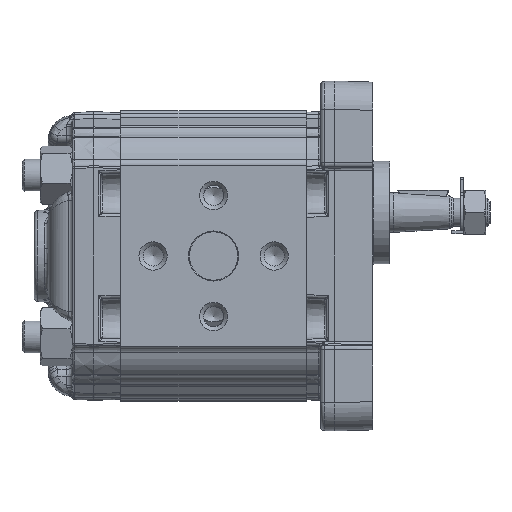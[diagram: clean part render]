
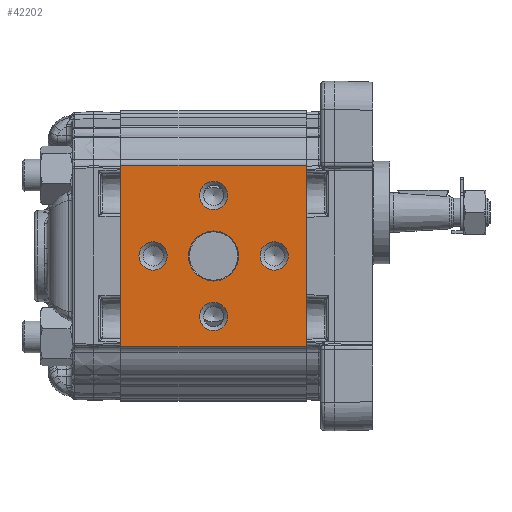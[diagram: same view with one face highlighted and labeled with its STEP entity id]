
A CAD part, left-side view. The second image highlights one B-rep face of the part: STEP entity #42202.
In plain terms, the highlighted planar face has unit normal (-1, 0, 0).
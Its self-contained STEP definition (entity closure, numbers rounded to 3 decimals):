
#4064=LINE('',#97857,#6165);
#4074=LINE('',#97958,#6175);
#4093=LINE('',#98006,#6194);
#4094=LINE('',#98008,#6195);
#6165=VECTOR('',#74052,1000.);
#6175=VECTOR('',#74144,1000.);
#6194=VECTOR('',#74199,1000.);
#6195=VECTOR('',#74202,1000.);
#7745=PLANE('',#65985);
#13418=ORIENTED_EDGE('',*,*,#23664,.T.);
#13419=ORIENTED_EDGE('',*,*,#23665,.T.);
#13420=ORIENTED_EDGE('',*,*,#23666,.T.);
#13421=ORIENTED_EDGE('',*,*,#23667,.T.);
#13422=ORIENTED_EDGE('',*,*,#23668,.T.);
#13423=ORIENTED_EDGE('',*,*,#23644,.T.);
#13424=ORIENTED_EDGE('',*,*,#23616,.T.);
#13425=ORIENTED_EDGE('',*,*,#23645,.T.);
#13426=ORIENTED_EDGE('',*,*,#23566,.F.);
#23566=EDGE_CURVE('',#29022,#29023,#4064,.T.);
#23616=EDGE_CURVE('',#29073,#29072,#4074,.T.);
#23644=EDGE_CURVE('',#29022,#29073,#4093,.T.);
#23645=EDGE_CURVE('',#29072,#29023,#4094,.F.);
#23664=EDGE_CURVE('',#29092,#29092,#32485,.F.);
#23665=EDGE_CURVE('',#29093,#29093,#32486,.F.);
#23666=EDGE_CURVE('',#29094,#29094,#32487,.F.);
#23667=EDGE_CURVE('',#29095,#29095,#32488,.F.);
#23668=EDGE_CURVE('',#29096,#29096,#32489,.F.);
#29022=VERTEX_POINT('',#97856);
#29023=VERTEX_POINT('',#97858);
#29072=VERTEX_POINT('',#97957);
#29073=VERTEX_POINT('',#97959);
#29092=VERTEX_POINT('',#98131);
#29093=VERTEX_POINT('',#98133);
#29094=VERTEX_POINT('',#98135);
#29095=VERTEX_POINT('',#98137);
#29096=VERTEX_POINT('',#98139);
#32485=CIRCLE('',#65986,3.5);
#32486=CIRCLE('',#65987,3.5);
#32487=CIRCLE('',#65988,3.5);
#32488=CIRCLE('',#65989,3.5);
#32489=CIRCLE('',#65990,6.2);
#35120=EDGE_LOOP('',(#13418));
#35121=EDGE_LOOP('',(#13419));
#35122=EDGE_LOOP('',(#13420));
#35123=EDGE_LOOP('',(#13421));
#35124=EDGE_LOOP('',(#13422));
#35125=EDGE_LOOP('',(#13423,#13424,#13425,#13426));
#38303=FACE_BOUND('',#35120,.T.);
#38304=FACE_BOUND('',#35121,.T.);
#38305=FACE_BOUND('',#35122,.T.);
#38306=FACE_BOUND('',#35123,.T.);
#38307=FACE_BOUND('',#35124,.T.);
#38308=FACE_BOUND('',#35125,.T.);
#42202=ADVANCED_FACE('',(#38303,#38304,#38305,#38306,#38307,#38308),#7745,
 .T.);
#65985=AXIS2_PLACEMENT_3D('',#98129,#74245,#74246);
#65986=AXIS2_PLACEMENT_3D('',#98130,#74247,#74248);
#65987=AXIS2_PLACEMENT_3D('',#98132,#74249,#74250);
#65988=AXIS2_PLACEMENT_3D('',#98134,#74251,#74252);
#65989=AXIS2_PLACEMENT_3D('',#98136,#74253,#74254);
#65990=AXIS2_PLACEMENT_3D('',#98138,#74255,#74256);
#74052=DIRECTION('',(0.,0.,1.));
#74144=DIRECTION('',(0.,0.,1.));
#74199=DIRECTION('',(0.,-1.,0.));
#74202=DIRECTION('',(0.,-1.,0.));
#74245=DIRECTION('',(-1.,0.,0.));
#74246=DIRECTION('',(0.,0.,1.));
#74247=DIRECTION('',(-1.,0.,0.));
#74248=DIRECTION('',(0.,0.,1.));
#74249=DIRECTION('',(-1.,0.,0.));
#74250=DIRECTION('',(0.,0.,1.));
#74251=DIRECTION('',(-1.,0.,0.));
#74252=DIRECTION('',(0.,0.,1.));
#74253=DIRECTION('',(-1.,0.,0.));
#74254=DIRECTION('',(0.,0.,1.));
#74255=DIRECTION('',(-1.,0.,0.));
#74256=DIRECTION('',(0.,0.,1.));
#97856=CARTESIAN_POINT('',(-33.,46.,-22.5));
#97857=CARTESIAN_POINT('',(-33.,46.,-21.711));
#97858=CARTESIAN_POINT('',(-33.,46.,22.5));
#97957=CARTESIAN_POINT('',(-33.,0.,22.5));
#97958=CARTESIAN_POINT('',(-33.,0.,-21.711));
#97959=CARTESIAN_POINT('',(-33.,0.,-22.5));
#98006=CARTESIAN_POINT('',(-33.,46.,-22.5));
#98008=CARTESIAN_POINT('',(-33.,46.,22.5));
#98129=CARTESIAN_POINT('',(-33.,126.409,48.138));
#98130=CARTESIAN_POINT('',(-33.,23.,-15.));
#98131=CARTESIAN_POINT('',(-33.,23.,-11.5));
#98132=CARTESIAN_POINT('',(-33.,8.,0.));
#98133=CARTESIAN_POINT('',(-33.,8.,3.5));
#98134=CARTESIAN_POINT('',(-33.,23.,15.));
#98135=CARTESIAN_POINT('',(-33.,23.,18.5));
#98136=CARTESIAN_POINT('',(-33.,38.,0.));
#98137=CARTESIAN_POINT('',(-33.,38.,3.5));
#98138=CARTESIAN_POINT('',(-33.,23.,0.));
#98139=CARTESIAN_POINT('',(-33.,23.,6.2));
